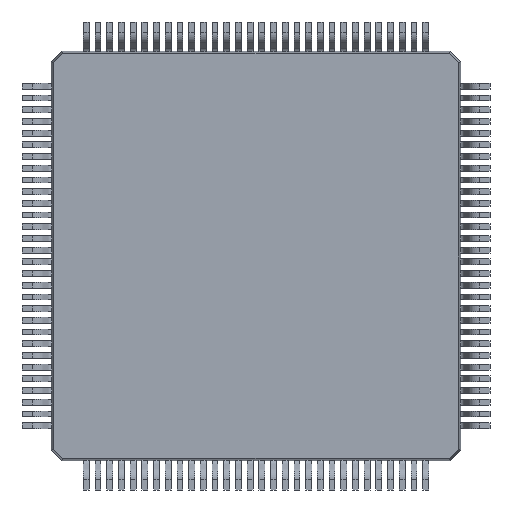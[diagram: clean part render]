
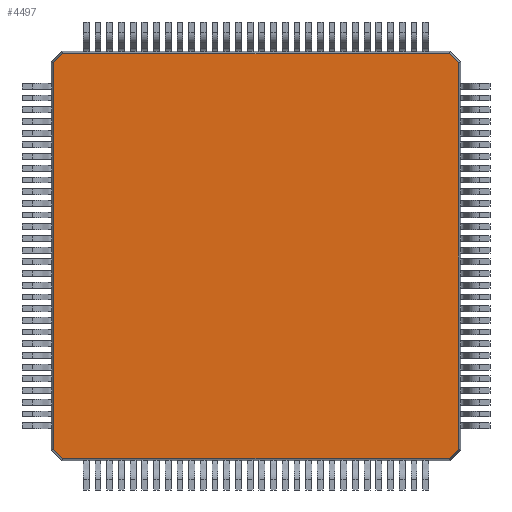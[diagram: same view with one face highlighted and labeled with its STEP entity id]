
A CAD part, front view. The second image highlights one B-rep face of the part: STEP entity #4497.
In plain terms, the highlighted planar face has unit normal (0, -1, 0).
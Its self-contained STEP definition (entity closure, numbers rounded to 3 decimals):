
#3007 = VERTEX_POINT ( 'NONE', #16924 ) ;
#3009 = EDGE_CURVE ( 'NONE', #3007, #3010, #16923, .T. ) ;
#3010 = VERTEX_POINT ( 'NONE', #16919 ) ;
#3464 = VERTEX_POINT ( 'NONE', #17781 ) ;
#3466 = EDGE_CURVE ( 'NONE', #3464, #3467, #17780, .T. ) ;
#3467 = VERTEX_POINT ( 'NONE', #17776 ) ;
#4141 = VERTEX_POINT ( 'NONE', #18875 ) ;
#4143 = EDGE_CURVE ( 'NONE', #4141, #4148, #18937, .T. ) ;
#4148 = VERTEX_POINT ( 'NONE', #18921 ) ;
#4150 = EDGE_CURVE ( 'NONE', #4148, #3007, #18920, .T. ) ;
#4495 = EDGE_CURVE ( 'NONE', #3010, #57320, #19520, .T. ) ;
#4497 = ADVANCED_FACE ( 'NONE', ( #19516 ), #19514, .T. ) ;
#4498 = EDGE_LOOP ( 'NONE', ( #4499, #4500, #4501, #4502, #4503, #4504, #4505, #4506 ) ) ;
#4499 = ORIENTED_EDGE ( 'NONE', *, *, #3009, .F. ) ;
#4500 = ORIENTED_EDGE ( 'NONE', *, *, #4150, .F. ) ;
#4501 = ORIENTED_EDGE ( 'NONE', *, *, #4143, .F. ) ;
#4502 = ORIENTED_EDGE ( 'NONE', *, *, #4527, .F. ) ;
#4503 = ORIENTED_EDGE ( 'NONE', *, *, #3466, .F. ) ;
#4504 = ORIENTED_EDGE ( 'NONE', *, *, #4511, .F. ) ;
#4505 = ORIENTED_EDGE ( 'NONE', *, *, #57324, .F. ) ;
#4506 = ORIENTED_EDGE ( 'NONE', *, *, #4495, .F. ) ;
#4511 = EDGE_CURVE ( 'NONE', #57325, #3464, #19506, .T. ) ;
#4527 = EDGE_CURVE ( 'NONE', #3467, #4141, #19539, .T. ) ;
#16919 = CARTESIAN_POINT ( 'NONE',  ( -6.912, 0.2, 6.603 ) ) ;
#16920 = DIRECTION ( 'NONE',  ( 0., 0., 1. ) ) ;
#16921 = VECTOR ( 'NONE', #16920, 1000. ) ;
#16922 = CARTESIAN_POINT ( 'NONE',  ( -6.912, 0.2, 6.64 ) ) ;
#16923 = LINE ( 'NONE', #16922, #16921 ) ;
#16924 = CARTESIAN_POINT ( 'NONE',  ( -6.912, 0.2, -6.603 ) ) ;
#17776 = CARTESIAN_POINT ( 'NONE',  ( 6.912, 0.2, -6.603 ) ) ;
#17777 = DIRECTION ( 'NONE',  ( 0., 0., -1. ) ) ;
#17778 = VECTOR ( 'NONE', #17777, 1000. ) ;
#17779 = CARTESIAN_POINT ( 'NONE',  ( 6.912, 0.2, 6.64 ) ) ;
#17780 = LINE ( 'NONE', #17779, #17778 ) ;
#17781 = CARTESIAN_POINT ( 'NONE',  ( 6.912, 0.2, 6.603 ) ) ;
#18875 = CARTESIAN_POINT ( 'NONE',  ( 6.603, 0.2, -6.912 ) ) ;
#18917 = DIRECTION ( 'NONE',  ( -0.707, 0., 0.707 ) ) ;
#18918 = VECTOR ( 'NONE', #18917, 1000. ) ;
#18919 = CARTESIAN_POINT ( 'NONE',  ( -6.938, 0.2, -6.578 ) ) ;
#18920 = LINE ( 'NONE', #18919, #18918 ) ;
#18921 = CARTESIAN_POINT ( 'NONE',  ( -6.603, 0.2, -6.912 ) ) ;
#18934 = DIRECTION ( 'NONE',  ( -1., 0., 0. ) ) ;
#18935 = VECTOR ( 'NONE', #18934, 1000. ) ;
#18936 = CARTESIAN_POINT ( 'NONE',  ( -6.64, 0.2, -6.912 ) ) ;
#18937 = LINE ( 'NONE', #18936, #18935 ) ;
#19503 = DIRECTION ( 'NONE',  ( 0.707, 0., -0.707 ) ) ;
#19504 = VECTOR ( 'NONE', #19503, 1000. ) ;
#19505 = CARTESIAN_POINT ( 'NONE',  ( 6.578, 0.2, 6.938 ) ) ;
#19506 = LINE ( 'NONE', #19505, #19504 ) ;
#19510 = DIRECTION ( 'NONE',  ( 0., 0., -1. ) ) ;
#19511 = DIRECTION ( 'NONE',  ( 0., -1., 0. ) ) ;
#19512 = CARTESIAN_POINT ( 'NONE',  ( -7., 0.2, -7. ) ) ;
#19513 = AXIS2_PLACEMENT_3D ( 'NONE', #19512, #19511, #19510 ) ;
#19514 = PLANE ( 'NONE',  #19513 ) ;
#19516 = FACE_OUTER_BOUND ( 'NONE', #4498, .T. ) ;
#19517 = DIRECTION ( 'NONE',  ( 0.707, 0., 0.707 ) ) ;
#19518 = VECTOR ( 'NONE', #19517, 1000. ) ;
#19519 = CARTESIAN_POINT ( 'NONE',  ( -6.938, 0.2, 6.578 ) ) ;
#19520 = LINE ( 'NONE', #19519, #19518 ) ;
#19536 = DIRECTION ( 'NONE',  ( -0.707, 0., -0.707 ) ) ;
#19537 = VECTOR ( 'NONE', #19536, 1000. ) ;
#19538 = CARTESIAN_POINT ( 'NONE',  ( 6.578, 0.2, -6.938 ) ) ;
#19539 = LINE ( 'NONE', #19538, #19537 ) ;
#34008 = CARTESIAN_POINT ( 'NONE',  ( 6.603, 0.2, 6.912 ) ) ;
#34009 = DIRECTION ( 'NONE',  ( 1., 0., 0. ) ) ;
#34010 = VECTOR ( 'NONE', #34009, 1000. ) ;
#34011 = CARTESIAN_POINT ( 'NONE',  ( -6.64, 0.2, 6.912 ) ) ;
#34012 = LINE ( 'NONE', #34011, #34010 ) ;
#34019 = CARTESIAN_POINT ( 'NONE',  ( -6.603, 0.2, 6.912 ) ) ;
#57320 = VERTEX_POINT ( 'NONE', #34019 ) ;
#57324 = EDGE_CURVE ( 'NONE', #57320, #57325, #34012, .T. ) ;
#57325 = VERTEX_POINT ( 'NONE', #34008 ) ;
